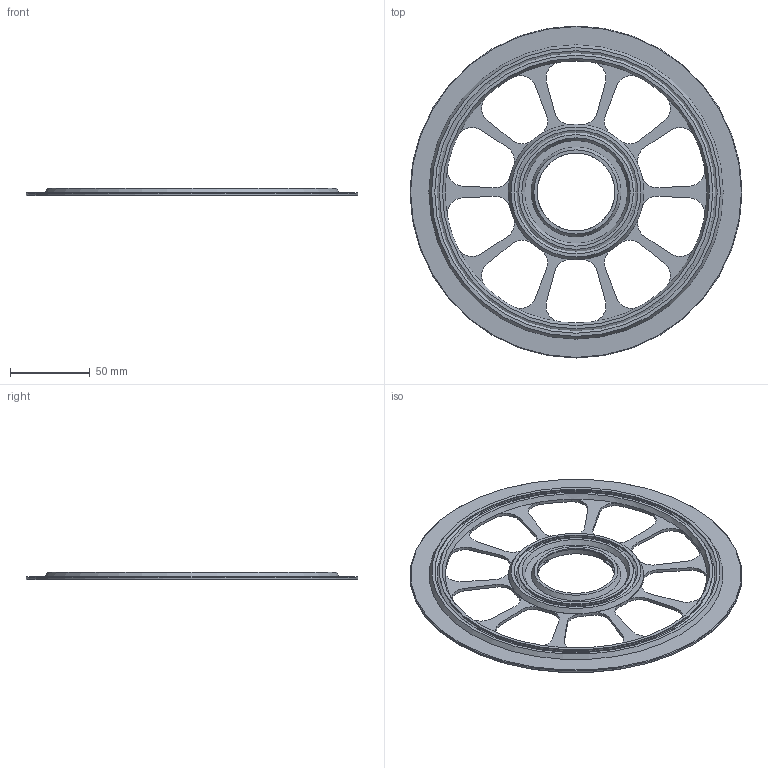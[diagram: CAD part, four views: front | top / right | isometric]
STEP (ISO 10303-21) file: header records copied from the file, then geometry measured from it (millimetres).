
FILE_DESCRIPTION(/* description */ (''),/* implementation_level */ '2;1');
FILE_NAME(/* name */ 'SBOOX_Druckbox_Drehteller.step',/* time_stamp */ '2025-09-07T12:37:26+02:00',/* author */ (''),/* organization */ (''),/* preprocessor_version */ 'ST-DEVELOPER v20.1',/* originating_system */ 'Autodesk Translation Framework v14.10.0.0',/* authorisation */ '');
FILE_SCHEMA (('AUTOMOTIVE_DESIGN { 1 0 10303 214 3 1 1 }'));
Length unit declared in the file: millimetre
Products named in the file (1): Rotella_V2
Bounding box: 207.96 x 207.96 x 4.97 mm (x, y, z)
Volume: 54797.6 mm3; surface area: 51214.5 mm2
Topology: 1 solids, 1 shells, 126 faces, 349 edges, 221 vertices
Faces by surface type: cylinder 61, plane 46, cone 19
Full cylindrical faces by diameter (mm): 48.755 x1, 71.242 x1, 71.839 x1, 78.008 x1, 84.838 x1, 170.742 x1, 171.339 x1, 177.508 x1, 207.955 x1
Entity records: 4147 total; most frequent: DIRECTION 780, CARTESIAN_POINT 701, ORIENTED_EDGE 698, EDGE_CURVE 349, AXIS2_PLACEMENT_3D 306, VERTEX_POINT 221, CIRCLE 179, LINE 168
